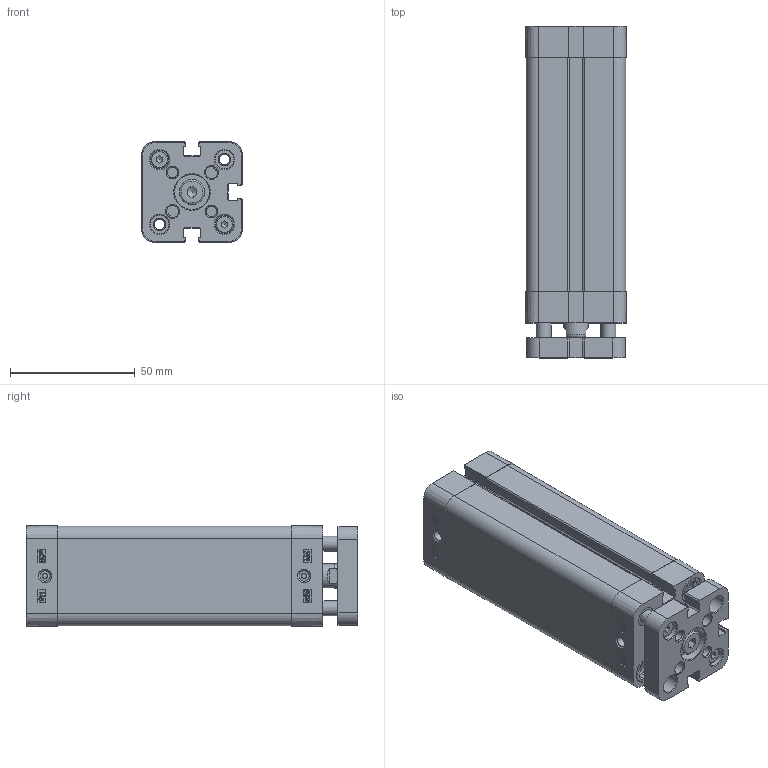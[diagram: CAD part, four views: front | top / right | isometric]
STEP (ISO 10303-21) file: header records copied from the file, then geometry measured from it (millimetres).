
FILE_DESCRIPTION((''),'2;1');
FILE_NAME('T:\Archivio Inventor\- CATALOGHI 2012\SERIE P - NUOVA\PDMA\PDMA025\PDMA025.---.GS.F\PDMA025.080.GS.F.stp','2013-05-14T08:09:17',('Administrator'),(''),'Autodesk Inventor 2012','Autodesk Inventor 2012','');
FILE_SCHEMA(('CONFIG_CONTROL_DESIGN'));
Length unit declared in the file: millimetre
Products named in the file (1): PDMA025.080.GS.F
Bounding box: 40.3 x 133 x 40.3 mm (x, y, z)
Volume: 113875.1 mm3; surface area: 60012 mm2
Topology: 1 solids, 10 shells, 740 faces, 1914 edges, 1251 vertices
Faces by surface type: plane 375, cylinder 181, bspline 92, cone 76, torus 16
Full cylindrical faces by diameter (mm): 2 x2, 4 x2, 4.134 x10, 4.3 x2, 4.917 x1, 5 x2, 6 x7, 7 x2, 7.5 x6, 7.55 x2, 7.6 x1, 8 x12, 9 x1, 10 x2, 10.5 x1, 10.9 x4, 11.1 x4, 14 x1, 25 x1, 27.3 x1, 27.5 x1
Entity records: 22874 total; most frequent: CARTESIAN_POINT 4999, ORIENTED_EDGE 3476, DIRECTION 3298, EDGE_CURVE 1738, VERTEX_POINT 1221, AXIS2_PLACEMENT_3D 1126, VECTOR 1046, LINE 1046
